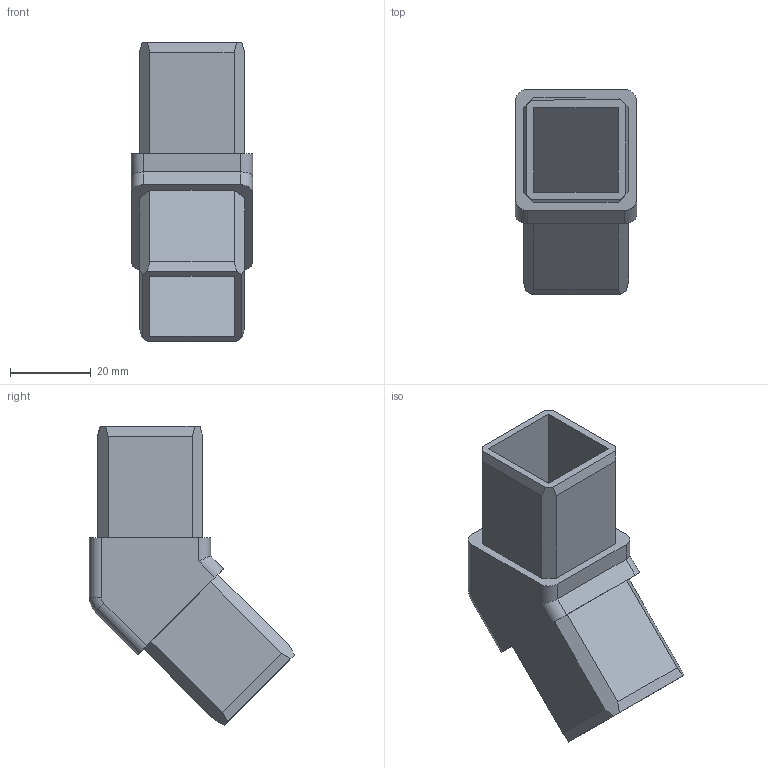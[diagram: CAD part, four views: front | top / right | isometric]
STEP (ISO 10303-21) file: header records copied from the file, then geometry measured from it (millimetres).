
FILE_DESCRIPTION (( 'STEP AP214' ), '1' );
FILE_NAME ('L15818.step', '2024-12-03T16:19:18', ( '' ), ( '' ), 'SwSTEP 2.0', 'SolidWorks 2023', '' );
FILE_SCHEMA (( 'AUTOMOTIVE_DESIGN' ));
Length unit declared in the file: millimetre
Products named in the file (1): L15818
Bounding box: 30 x 50.74 x 73.96 mm (x, y, z)
Volume: 21699.1 mm3; surface area: 15058.5 mm2
Topology: 1 solids, 1 shells, 51 faces, 135 edges, 88 vertices
Faces by surface type: plane 40, cylinder 9, torus 2
Entity records: 1584 total; most frequent: CARTESIAN_POINT 281, ORIENTED_EDGE 270, DIRECTION 253, EDGE_CURVE 135, LINE 117, VECTOR 117, VERTEX_POINT 88, AXIS2_PLACEMENT_3D 68
